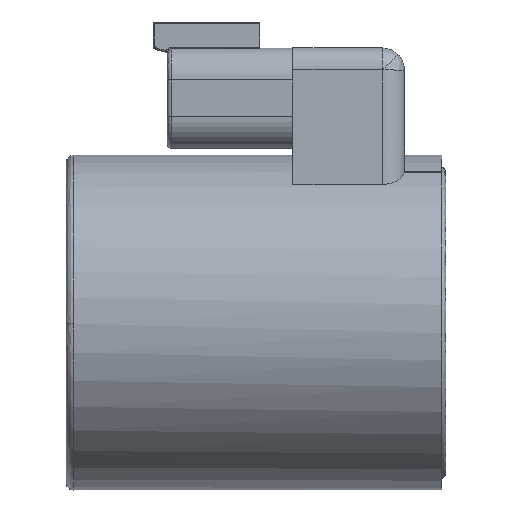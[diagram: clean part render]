
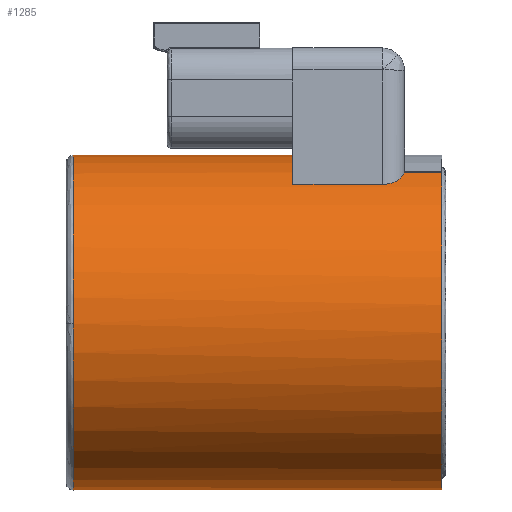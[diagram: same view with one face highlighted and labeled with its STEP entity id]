
A CAD part, top view. The second image highlights one B-rep face of the part: STEP entity #1285.
In plain terms, the highlighted cylindrical face has radius 22.5 mm (diameter 45 mm), a partial arc.
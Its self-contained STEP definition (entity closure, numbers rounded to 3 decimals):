
#14 = DIRECTION ( 'NONE',  ( 0., 1., 0. ) ) ;
#21 = DIRECTION ( 'NONE',  ( -1., 0., 0. ) ) ;
#29 = CARTESIAN_POINT ( 'NONE',  ( 14.966, 11.016, -6.95 ) ) ;
#68 = AXIS2_PLACEMENT_3D ( 'NONE', #5286, #5283, #5275 ) ;
#98 = VECTOR ( 'NONE', #1999, 1000. ) ;
#109 = DIRECTION ( 'NONE',  ( 1., 0., 0. ) ) ;
#121 = CARTESIAN_POINT ( 'NONE',  ( 24.966, -11.484, -6.95 ) ) ;
#164 = LINE ( 'NONE', #2053, #98 ) ;
#170 = VECTOR ( 'NONE', #4874, 1000. ) ;
#185 = LINE ( 'NONE', #5814, #170 ) ;
#231 = AXIS2_PLACEMENT_3D ( 'NONE', #4472, #4466, #4463 ) ;
#347 = EDGE_LOOP ( 'NONE', ( #2817, #2822, #2812, #2793, #2805, #2774, #2777, #2784, #4167 ) ) ;
#393 = CIRCLE ( 'NONE', #943, 22.5 ) ;
#422 = AXIS2_PLACEMENT_3D ( 'NONE', #2804, #5371, #2788 ) ;
#681 = CARTESIAN_POINT ( 'NONE',  ( 24.966, 31.172, 3.05 ) ) ;
#748 = DIRECTION ( 'NONE',  ( -1., 0., 0. ) ) ;
#943 = AXIS2_PLACEMENT_3D ( 'NONE', #29, #21, #14 ) ;
#996 = DIRECTION ( 'NONE',  ( 1., 0., 0. ) ) ;
#997 = AXIS2_PLACEMENT_3D ( 'NONE', #5799, #5794, #5787 ) ;
#1004 = CARTESIAN_POINT ( 'NONE',  ( 24.966, 11.016, -6.95 ) ) ;
#1012 = DIRECTION ( 'NONE',  ( 0., 1., 0. ) ) ;
#1021 = VECTOR ( 'NONE', #109, 1000. ) ;
#1285 = ADVANCED_FACE ( 'NONE', ( #1532 ), #1500, .T. ) ;
#1500 = CYLINDRICAL_SURFACE ( 'NONE', #3634, 22.5 ) ;
#1532 = FACE_OUTER_BOUND ( 'NONE', #347, .T. ) ;
#1567 = VERTEX_POINT ( 'NONE', #5878 ) ;
#1646 = EDGE_CURVE ( 'NONE', #4484, #4101, #2200, .T. ) ;
#1766 = EDGE_CURVE ( 'NONE', #1567, #4006, #3715, .T. ) ;
#1844 = CARTESIAN_POINT ( 'NONE',  ( -24.534, 33.516, -6.95 ) ) ;
#1848 = LINE ( 'NONE', #681, #4023 ) ;
#1999 = DIRECTION ( 'NONE',  ( 1., 0., 0. ) ) ;
#2053 = CARTESIAN_POINT ( 'NONE',  ( 24.966, 33.516, -6.95 ) ) ;
#2180 = CARTESIAN_POINT ( 'NONE',  ( 24.966, -11.484, -6.95 ) ) ;
#2200 = CIRCLE ( 'NONE', #997, 22.5 ) ;
#2274 = EDGE_CURVE ( 'NONE', #4380, #3821, #4444, .T. ) ;
#2656 = CARTESIAN_POINT ( 'NONE',  ( 4.966, 31.268, 2.855 ) ) ;
#2674 = CARTESIAN_POINT ( 'NONE',  ( -24.534, 10.809, 15.549 ) ) ;
#2697 = CARTESIAN_POINT ( 'NONE',  ( -24.534, -11.484, -6.95 ) ) ;
#2702 = CARTESIAN_POINT ( 'NONE',  ( 24.966, 31.172, 3.05 ) ) ;
#2734 = CARTESIAN_POINT ( 'NONE',  ( 14.966, 31.268, 2.855 ) ) ;
#2774 = ORIENTED_EDGE ( 'NONE', *, *, #1766, .T. ) ;
#2777 = ORIENTED_EDGE ( 'NONE', *, *, #4763, .T. ) ;
#2784 = ORIENTED_EDGE ( 'NONE', *, *, #4736, .T. ) ;
#2788 = DIRECTION ( 'NONE',  ( 0., 1., 0. ) ) ;
#2793 = ORIENTED_EDGE ( 'NONE', *, *, #2274, .T. ) ;
#2804 = CARTESIAN_POINT ( 'NONE',  ( -24.534, 11.016, -6.95 ) ) ;
#2805 = ORIENTED_EDGE ( 'NONE', *, *, #4631, .T. ) ;
#2812 = ORIENTED_EDGE ( 'NONE', *, *, #4727, .T. ) ;
#2817 = ORIENTED_EDGE ( 'NONE', *, *, #1646, .T. ) ;
#2822 = ORIENTED_EDGE ( 'NONE', *, *, #3600, .T. ) ;
#3224 = CARTESIAN_POINT ( 'NONE',  ( 14.966, 33.516, -6.95 ) ) ;
#3298 = VERTEX_POINT ( 'NONE', #3224 ) ;
#3600 = EDGE_CURVE ( 'NONE', #4101, #3801, #5484, .T. ) ;
#3634 = AXIS2_PLACEMENT_3D ( 'NONE', #1004, #996, #1012 ) ;
#3715 = CIRCLE ( 'NONE', #68, 22.5 ) ;
#3747 = VERTEX_POINT ( 'NONE', #2734 ) ;
#3801 = VERTEX_POINT ( 'NONE', #2697 ) ;
#3821 = VERTEX_POINT ( 'NONE', #2702 ) ;
#4006 = VERTEX_POINT ( 'NONE', #2656 ) ;
#4023 = VECTOR ( 'NONE', #748, 1000. ) ;
#4101 = VERTEX_POINT ( 'NONE', #2674 ) ;
#4167 = ORIENTED_EDGE ( 'NONE', *, *, #4403, .F. ) ;
#4380 = VERTEX_POINT ( 'NONE', #2180 ) ;
#4403 = EDGE_CURVE ( 'NONE', #4484, #3298, #164, .T. ) ;
#4444 = CIRCLE ( 'NONE', #231, 22.5 ) ;
#4463 = DIRECTION ( 'NONE',  ( 0., 1., 0. ) ) ;
#4466 = DIRECTION ( 'NONE',  ( -1., 0., 0. ) ) ;
#4472 = CARTESIAN_POINT ( 'NONE',  ( 24.966, 11.016, -6.95 ) ) ;
#4484 = VERTEX_POINT ( 'NONE', #1844 ) ;
#4631 = EDGE_CURVE ( 'NONE', #3821, #1567, #1848, .T. ) ;
#4727 = EDGE_CURVE ( 'NONE', #3801, #4380, #5623, .T. ) ;
#4736 = EDGE_CURVE ( 'NONE', #3747, #3298, #393, .T. ) ;
#4763 = EDGE_CURVE ( 'NONE', #4006, #3747, #185, .T. ) ;
#4874 = DIRECTION ( 'NONE',  ( 1., 0., 0. ) ) ;
#5275 = DIRECTION ( 'NONE',  ( 0., 1., 0. ) ) ;
#5283 = DIRECTION ( 'NONE',  ( -1., 0., 0. ) ) ;
#5286 = CARTESIAN_POINT ( 'NONE',  ( 4.966, 11.016, -6.95 ) ) ;
#5371 = DIRECTION ( 'NONE',  ( 1., 0., 0. ) ) ;
#5484 = CIRCLE ( 'NONE', #422, 22.5 ) ;
#5623 = LINE ( 'NONE', #121, #1021 ) ;
#5787 = DIRECTION ( 'NONE',  ( 0., 1., 0. ) ) ;
#5794 = DIRECTION ( 'NONE',  ( 1., 0., 0. ) ) ;
#5799 = CARTESIAN_POINT ( 'NONE',  ( -24.534, 11.016, -6.95 ) ) ;
#5814 = CARTESIAN_POINT ( 'NONE',  ( 19.966, 31.268, 2.855 ) ) ;
#5878 = CARTESIAN_POINT ( 'NONE',  ( 4.966, 31.172, 3.05 ) ) ;
